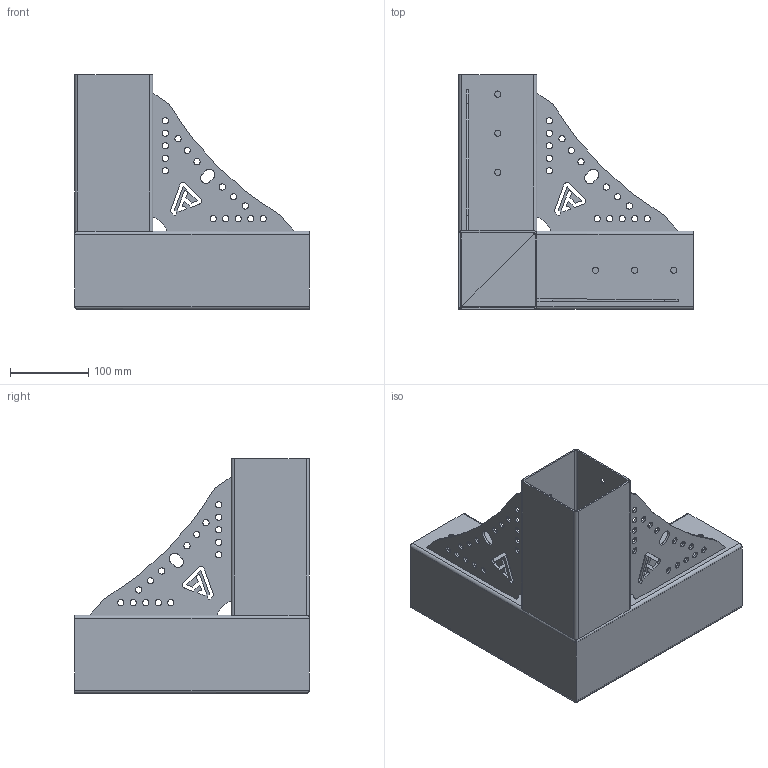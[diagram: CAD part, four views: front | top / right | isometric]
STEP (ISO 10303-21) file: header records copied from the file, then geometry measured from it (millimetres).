
FILE_DESCRIPTION(('STEP AP214'), '1');
FILE_NAME('倚任 襻铕赅', '', ('UNSPECIFIED'), ('UNSPECIFIED'), 'C3D Converter', 'C3D Toolkit', '');
FILE_SCHEMA(('AUTOMOTIVE_DESIGN { 1 0 10303 214 3 1 1}'));
Length unit declared in the file: millimetre
Products named in the file (8): АКСЛ.298.300 СБ; АКСЛ.298.302; АКСЛ.298.302-01; АКСЛ.298.301; АКСЛ.298.201; 0; 3D Узел_3; 3D Узел_2
Assembly tree (9 placements, depth 4):
  АКСЛ.298.300 СБ
    АКСЛ.298.302
    АКСЛ.298.302-01
    АКСЛ.298.301
    АКСЛ.298.201  x3
      0
        3D Узел_3
        3D Узел_2
Bounding box: 300 x 300 x 300 mm (x, y, z)
Volume: 657633 mm3; surface area: 636419.6 mm2
Topology: 6 solids, 6 shells, 624 faces, 1836 edges, 1230 vertices
Faces by surface type: plane 522, cylinder 102
Full cylindrical faces by diameter (mm): 8 x66
Entity records: 10301 total; most frequent: CARTESIAN_POINT 1522, ORIENTED_EDGE 1420, DIRECTION 1334, EDGE_CURVE 710, LINE 586, VECTOR 586, VERTEX_POINT 496, AXIS2_PLACEMENT_3D 374
